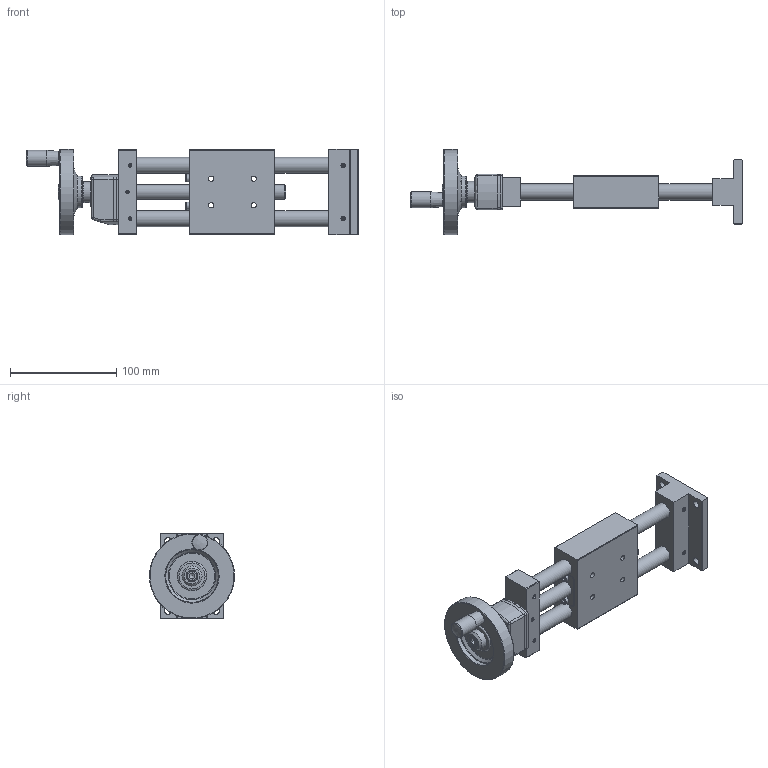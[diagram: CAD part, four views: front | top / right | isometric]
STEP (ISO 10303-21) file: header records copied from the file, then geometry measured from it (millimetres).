
FILE_DESCRIPTION (( 'STEP AP203' ), '1' );
FILE_NAME ('BHST80-50.STEP', '2024-07-30T01:06:26', ( 'Windows User' ), ( 'P R C' ), 'SwSTEP 2.0', 'SolidWorks 2024', '' );
FILE_SCHEMA (( 'CONFIG_CONTROL_DESIGN' ));
Length unit declared in the file: millimetre
Products named in the file (1): BHST80-50
Bounding box: 311.9 x 79.88 x 80 mm (x, y, z)
Volume: 449648.1 mm3; surface area: 135152.9 mm2
Topology: 30 solids, 30 shells, 539 faces, 1207 edges, 748 vertices
Faces by surface type: plane 315, cylinder 126, cone 72, torus 14, bspline 11, sphere 1
Full cylindrical faces by diameter (mm): 3 x1, 3.3 x13, 4 x13, 4.5 x2, 4.917 x1, 5 x5, 6 x5, 6.6 x5, 7 x2, 7.5 x2, 8 x2, 10 x7, 10.1 x1, 11 x1, 14 x4, 14.5 x1, 15 x9, 16 x2, 17 x1, 17.1 x1, 19 x1, 19.8 x3, 20 x1, 20.5 x1, 27 x1, 30 x1, 50 x1, 80 x1
Entity records: 14655 total; most frequent: CARTESIAN_POINT 3346, DIRECTION 2400, ORIENTED_EDGE 1946, EDGE_CURVE 973, AXIS2_PLACEMENT_3D 927, EDGE_LOOP 821, VERTEX_POINT 696, FACE_OUTER_BOUND 641
